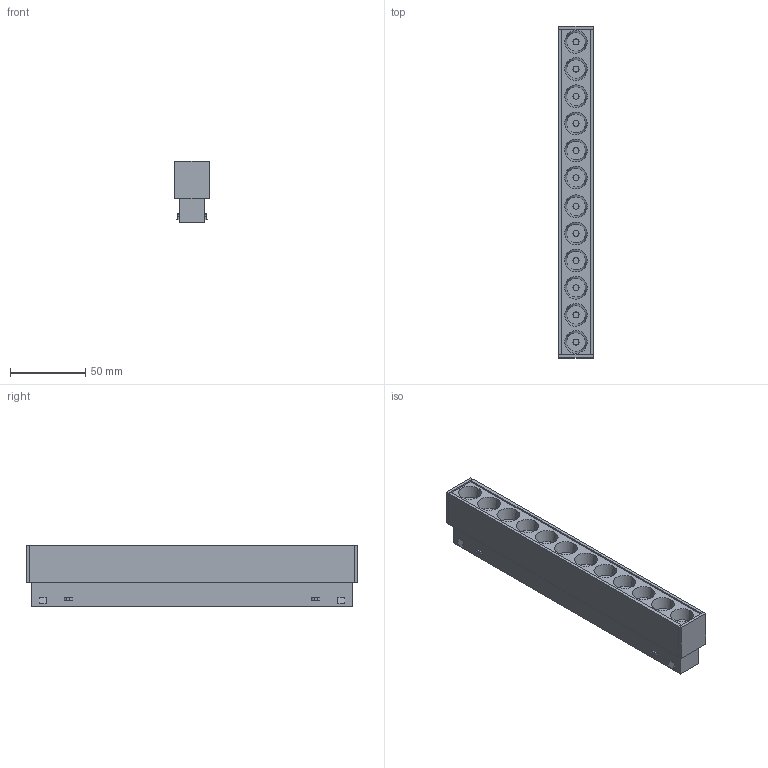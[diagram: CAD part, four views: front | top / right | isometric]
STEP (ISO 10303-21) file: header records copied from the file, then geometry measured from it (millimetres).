
FILE_DESCRIPTION(/* description */ (''),/* implementation_level */ '2;1');
FILE_NAME(/* name */ 'KL-T10~1',/* time_stamp */ '2026-07-07T11:02:55+08:00',/* author */ (''),/* organization */ (''),/* preprocessor_version */ 'ST-DEVELOPER v16.5',/* originating_system */ '',/* authorisation */ '');
FILE_SCHEMA (('CONFIG_CONTROL_DESIGN'));
Length unit declared in the file: millimetre
Products named in the file (1): Document
Bounding box: 23 x 220 x 41 mm (x, y, z)
Volume: 160188.8 mm3; surface area: 74230.7 mm2
Topology: 22 solids, 22 shells, 228 faces, 444 edges, 288 vertices
Faces by surface type: plane 124, cylinder 80, bspline 24
Entity records: 5506 total; most frequent: CARTESIAN_POINT 2142, ORIENTED_EDGE 888, EDGE_CURVE 444, VERTEX_POINT 288, B_SPLINE_CURVE_WITH_KNOTS 260, EDGE_LOOP 256, ADVANCED_FACE 228, FACE_OUTER_BOUND 228
